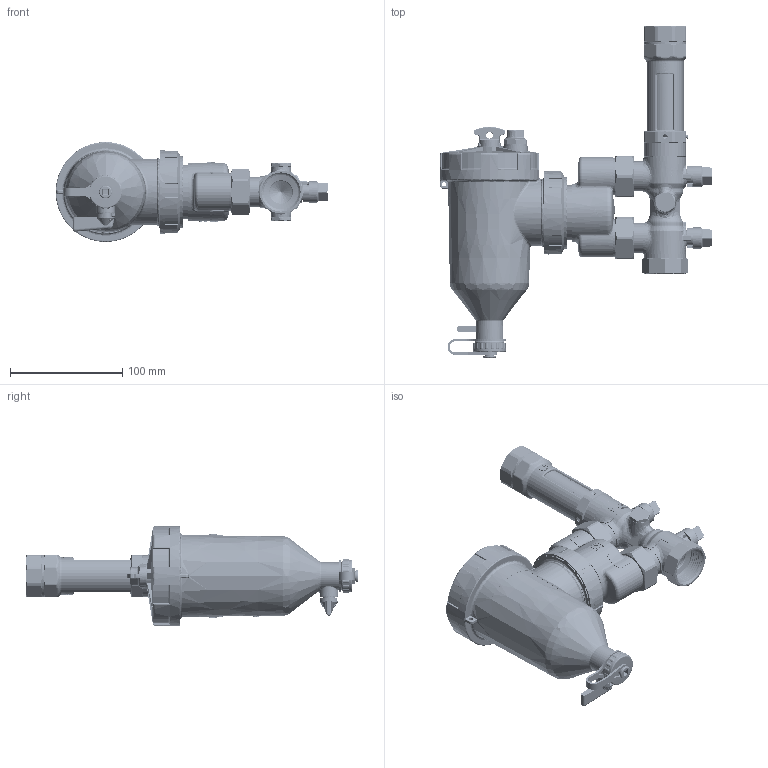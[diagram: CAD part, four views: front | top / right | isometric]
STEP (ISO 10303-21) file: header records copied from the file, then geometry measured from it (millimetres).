
FILE_DESCRIPTION (( 'STEP AP214' ), '1' );
FILE_NAME ('AHS560.STEP', '2023-12-04T10:10:38', ( '' ), ( '' ), 'SwSTEP 2.0', 'SolidWorks 2022', '' );
FILE_SCHEMA (( 'AUTOMOTIVE_DESIGN' ));
Length unit declared in the file: millimetre
Products named in the file (25): 31605404; 33605005; 60105021; AHS560; 31605332; 90105762; _233065RACL001; 53105253; 20105762; 52110008; 52110003; 32225004; 32205004; 54005000; 52705005; 31605403; 30105762; Defangatore-Afriso-senza-raccordo; nakretka_ADS160; pierscien_osadczy_AHS_560; 70105762; 31505553; 60105762; 52905637; 30105763
Assembly tree (32 placements, depth 7):
  AHS560
    70105762
      90105762
        20105762
          60105762
            30105762
            32225004  x2
              32205004
              52905637
          31605332
          52705005  x4
          31605404
        52110008  x2
        33605005  x2
      31505553  x2
      53105253  x2
      60105021
        30105763
        31605403
        54005000
      52110003
    _233065RACL001
    Defangatore-Afriso-senza-raccordo
    pierscien_osadczy_AHS_560
    nakretka_ADS160
Bounding box: 243.08 x 295.85 x 89 mm (x, y, z)
Volume: 566752.7 mm3; surface area: 302956.8 mm2
Topology: 37 solids, 41 shells, 6242 faces, 17215 edges, 11093 vertices
Faces by surface type: cylinder 3165, bspline 1181, plane 1118, cone 531, torus 221, sphere 26
Full cylindrical faces by diameter (mm): 3.422 x2
Entity records: 406779 total; most frequent: CARTESIAN_POINT 204818, ORIENTED_EDGE 32619, DIRECTION 20625, EDGE_CURVE 16314, VERTEX_POINT 10573, EDGE_LOOP 8161, AXIS2_PLACEMENT_3D 7708, B_SPLINE_CURVE_WITH_KNOTS 7412
